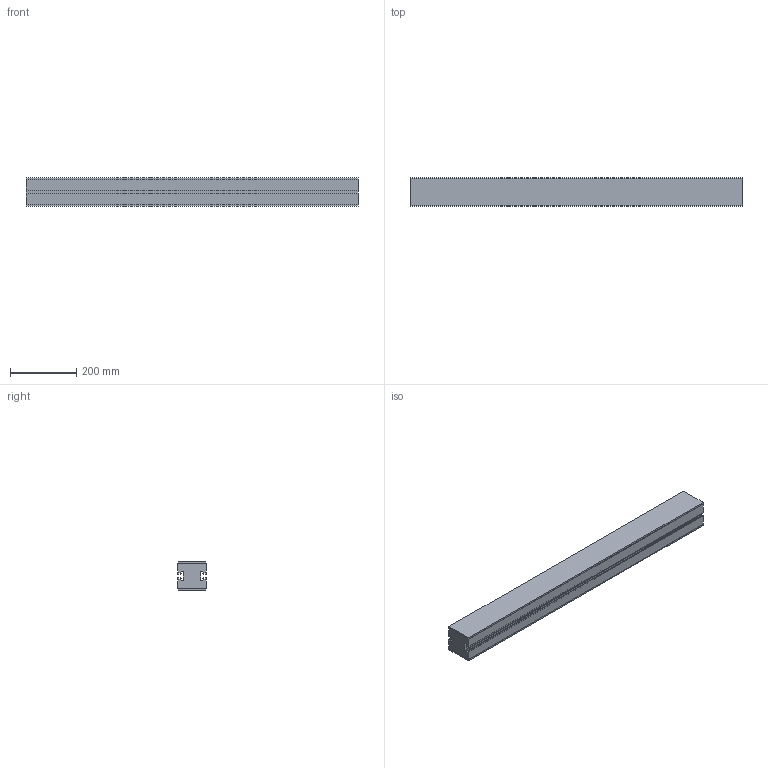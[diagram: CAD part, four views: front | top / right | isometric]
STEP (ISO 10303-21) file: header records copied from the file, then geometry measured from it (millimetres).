
FILE_DESCRIPTION(/* description */ ('Führungsprofil FM'),/* implementation_level */ '2;1');
FILE_NAME(/* name */ 'T:\vdz0\Step Daten Website\modulflex FM-System\Führungsprofil\FMCB L-1000.stp',/* time_stamp */ '2024-08-22T10:38:48+02:00',/* author */ ('vdz0'),/* organization */ ('modular automation GmbH'),/* preprocessor_version */ 'ST-DEVELOPER v18.1',/* originating_system */ 'Autodesk Inventor 2021',/* authorisation */ '');
FILE_SCHEMA (('CONFIG_CONTROL_DESIGN'));
Length unit declared in the file: millimetre
Products named in the file (1): FMCB L-1000
Bounding box: 1000 x 85 x 85 mm (x, y, z)
Volume: 6575520 mm3; surface area: 849151 mm2
Topology: 3 solids, 3 shells, 58 faces, 156 edges, 104 vertices
Faces by surface type: plane 58
Entity records: 1879 total; most frequent: CARTESIAN_POINT 319, ORIENTED_EDGE 312, DIRECTION 274, LINE 156, VECTOR 156, EDGE_CURVE 156, VERTEX_POINT 104, AXIS2_PLACEMENT_3D 59
